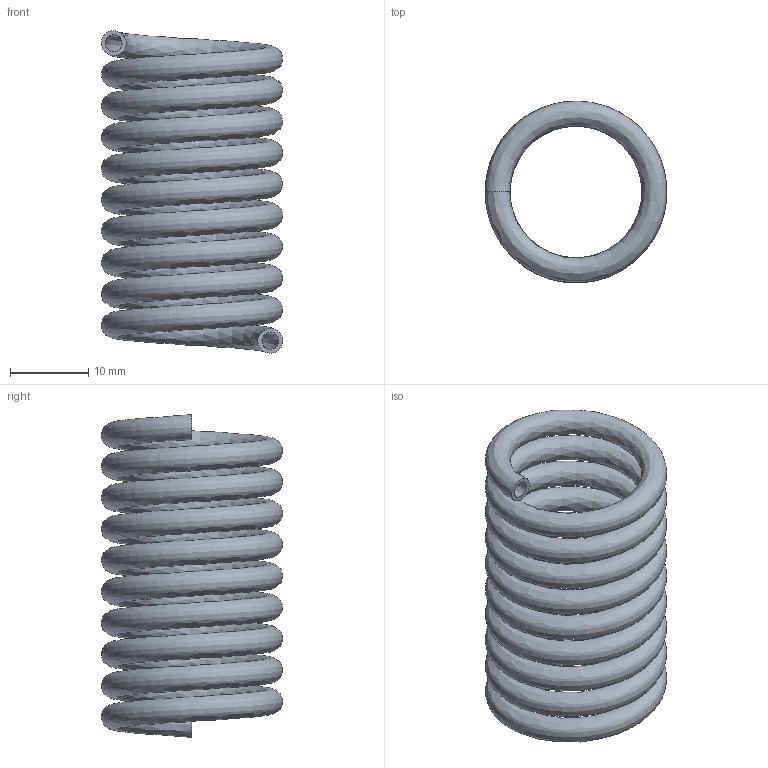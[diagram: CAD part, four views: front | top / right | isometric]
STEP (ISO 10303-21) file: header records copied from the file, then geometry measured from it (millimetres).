
FILE_DESCRIPTION(('Open CASCADE Model'),'2;1');
FILE_NAME('Open CASCADE Shape Model','2026-10-21T10:33:18',('Author'),( 'Open CASCADE'),'Open CASCADE STEP processor 7.9','Open CASCADE 7.9' ,'Unknown');
FILE_SCHEMA(('AUTOMOTIVE_DESIGN { 1 0 10303 214 1 1 1 1 }'));
Length unit declared in the file: millimetre
Products named in the file (1): Open CASCADE STEP translator 7.9 12
Bounding box: 23.18 x 23.17 x 41.17 mm (x, y, z)
Volume: 2548.7 mm3; surface area: 10013.7 mm2
Topology: 1 solids, 1 shells, 4 faces, 6 edges, 4 vertices
Faces by surface type: bspline 2, plane 2
Entity records: 2380 total; most frequent: CARTESIAN_POINT 2263, DIRECTION 14, ORIENTED_EDGE 12, PCURVE 12, DEFINITIONAL_REPRESENTATION 12, LINE 8, VECTOR 8, FACE_BOUND 6
